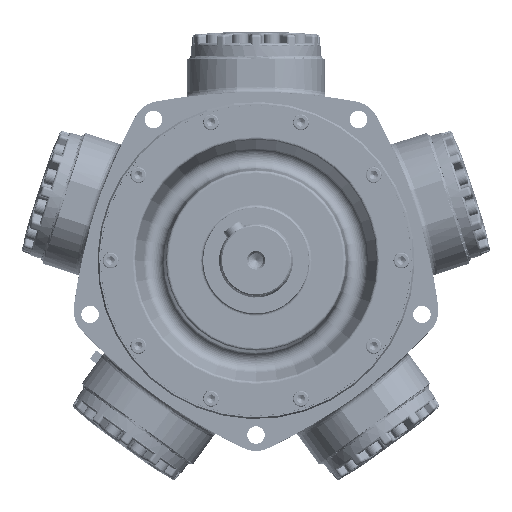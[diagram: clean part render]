
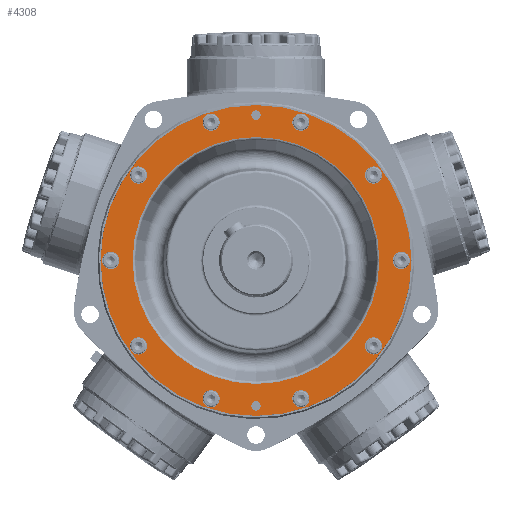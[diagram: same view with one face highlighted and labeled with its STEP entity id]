
A CAD part, top view. The second image highlights one B-rep face of the part: STEP entity #4308.
In plain terms, the highlighted planar face has unit normal (0, 0, 1).
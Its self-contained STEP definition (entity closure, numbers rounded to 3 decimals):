
#3345=CARTESIAN_POINT('',(5.664,174.625,69.152));
#3346=VERTEX_POINT('',#3345);
#3347=CARTESIAN_POINT('',(0.,174.625,69.152));
#3348=DIRECTION('',(0.0,0.0,-1.0));
#3349=DIRECTION('',(1.0,0.0,0.0));
#3350=AXIS2_PLACEMENT_3D('',#3347,#3348,#3349);
#3351=CIRCLE('',#3350,5.664);
#3352=EDGE_CURVE('',#3346,#3346,#3351,.T.);
#3373=CARTESIAN_POINT('',(5.664,-174.625,69.152));
#3374=VERTEX_POINT('',#3373);
#3375=CARTESIAN_POINT('',(0.,-174.625,69.152));
#3376=DIRECTION('',(0.0,0.0,-1.0));
#3377=DIRECTION('',(1.0,0.0,0.0));
#3378=AXIS2_PLACEMENT_3D('',#3375,#3376,#3377);
#3379=CIRCLE('',#3378,5.664);
#3380=EDGE_CURVE('',#3374,#3374,#3379,.T.);
#3390=CARTESIAN_POINT('',(57.151,-175.892,69.152));
#3391=VERTEX_POINT('',#3390);
#3392=CARTESIAN_POINT('',(53.962,-166.078,69.152));
#3393=DIRECTION('',(0.,0.,-1.0));
#3394=DIRECTION('',(0.309,-0.951,0.));
#3395=AXIS2_PLACEMENT_3D('',#3392,#3393,#3394);
#3396=CIRCLE('',#3395,10.319);
#3397=EDGE_CURVE('',#3391,#3391,#3396,.T.);
#3430=CARTESIAN_POINT('',(-57.151,-175.892,69.152));
#3431=VERTEX_POINT('',#3430);
#3432=CARTESIAN_POINT('',(-53.962,-166.078,69.152));
#3433=DIRECTION('',(0.,0.,-1.0));
#3434=DIRECTION('',(-0.309,-0.951,0.));
#3435=AXIS2_PLACEMENT_3D('',#3432,#3433,#3434);
#3436=CIRCLE('',#3435,10.319);
#3437=EDGE_CURVE('',#3431,#3431,#3436,.T.);
#3478=CARTESIAN_POINT('',(-149.623,-108.707,69.152));
#3479=VERTEX_POINT('',#3478);
#3480=CARTESIAN_POINT('',(-141.275,-102.642,69.152));
#3481=DIRECTION('',(0.,0.,-1.0));
#3482=DIRECTION('',(-0.809,-0.588,0.));
#3483=AXIS2_PLACEMENT_3D('',#3480,#3481,#3482);
#3484=CIRCLE('',#3483,10.319);
#3485=EDGE_CURVE('',#3479,#3479,#3484,.T.);
#3518=CARTESIAN_POINT('',(-184.944,0.,69.152));
#3519=VERTEX_POINT('',#3518);
#3520=CARTESIAN_POINT('',(-174.625,0.,69.152));
#3521=DIRECTION('',(0.0,0.0,-1.0));
#3522=DIRECTION('',(-1.0,0.0,0.0));
#3523=AXIS2_PLACEMENT_3D('',#3520,#3521,#3522);
#3524=CIRCLE('',#3523,10.319);
#3525=EDGE_CURVE('',#3519,#3519,#3524,.T.);
#3566=CARTESIAN_POINT('',(-149.623,108.707,69.152));
#3567=VERTEX_POINT('',#3566);
#3568=CARTESIAN_POINT('',(-141.275,102.642,69.152));
#3569=DIRECTION('',(0.,0.,-1.0));
#3570=DIRECTION('',(-0.809,0.588,0.));
#3571=AXIS2_PLACEMENT_3D('',#3568,#3569,#3570);
#3572=CIRCLE('',#3571,10.319);
#3573=EDGE_CURVE('',#3567,#3567,#3572,.T.);
#3606=CARTESIAN_POINT('',(-57.151,175.892,69.152));
#3607=VERTEX_POINT('',#3606);
#3608=CARTESIAN_POINT('',(-53.962,166.078,69.152));
#3609=DIRECTION('',(0.,0.,-1.0));
#3610=DIRECTION('',(-0.309,0.951,0.));
#3611=AXIS2_PLACEMENT_3D('',#3608,#3609,#3610);
#3612=CIRCLE('',#3611,10.319);
#3613=EDGE_CURVE('',#3607,#3607,#3612,.T.);
#3654=CARTESIAN_POINT('',(57.151,175.892,69.152));
#3655=VERTEX_POINT('',#3654);
#3656=CARTESIAN_POINT('',(53.962,166.078,69.152));
#3657=DIRECTION('',(0.,0.,-1.0));
#3658=DIRECTION('',(0.309,0.951,0.));
#3659=AXIS2_PLACEMENT_3D('',#3656,#3657,#3658);
#3660=CIRCLE('',#3659,10.319);
#3661=EDGE_CURVE('',#3655,#3655,#3660,.T.);
#3694=CARTESIAN_POINT('',(149.623,108.707,69.152));
#3695=VERTEX_POINT('',#3694);
#3696=CARTESIAN_POINT('',(141.275,102.642,69.152));
#3697=DIRECTION('',(0.,0.,-1.0));
#3698=DIRECTION('',(0.809,0.588,0.));
#3699=AXIS2_PLACEMENT_3D('',#3696,#3697,#3698);
#3700=CIRCLE('',#3699,10.319);
#3701=EDGE_CURVE('',#3695,#3695,#3700,.T.);
#3734=CARTESIAN_POINT('',(149.623,-108.707,69.152));
#3735=VERTEX_POINT('',#3734);
#3736=CARTESIAN_POINT('',(141.275,-102.642,69.152));
#3737=DIRECTION('',(0.,0.,-1.0));
#3738=DIRECTION('',(0.809,-0.588,0.));
#3739=AXIS2_PLACEMENT_3D('',#3736,#3737,#3738);
#3740=CIRCLE('',#3739,10.319);
#3741=EDGE_CURVE('',#3735,#3735,#3740,.T.);
#3782=CARTESIAN_POINT('',(184.944,0.,69.152));
#3783=VERTEX_POINT('',#3782);
#3784=CARTESIAN_POINT('',(174.625,0.,69.152));
#3785=DIRECTION('',(0.0,0.0,-1.0));
#3786=DIRECTION('',(1.0,0.0,0.0));
#3787=AXIS2_PLACEMENT_3D('',#3784,#3785,#3786);
#3788=CIRCLE('',#3787,10.319);
#3789=EDGE_CURVE('',#3783,#3783,#3788,.T.);
#4018=CARTESIAN_POINT('',(0.,186.626,69.152));
#4019=VERTEX_POINT('',#4018);
#4020=CARTESIAN_POINT('',(0.,0.,69.152));
#4021=DIRECTION('',(0.0,0.0,1.0));
#4022=DIRECTION('',(0.0,-1.0,0.0));
#4023=AXIS2_PLACEMENT_3D('',#4020,#4021,#4022);
#4024=CIRCLE('',#4023,186.626);
#4025=EDGE_CURVE('',#4019,#4019,#4024,.T.);
#4238=CARTESIAN_POINT('',(0.,148.273,69.152));
#4239=VERTEX_POINT('',#4238);
#4240=CARTESIAN_POINT('',(0.,0.,69.152));
#4241=DIRECTION('',(0.0,0.0,1.0));
#4242=DIRECTION('',(0.0,-1.0,0.0));
#4243=AXIS2_PLACEMENT_3D('',#4240,#4241,#4242);
#4244=CIRCLE('',#4243,148.273);
#4245=EDGE_CURVE('',#4239,#4239,#4244,.T.);
#4261=CARTESIAN_POINT('',(0.,169.862,69.152));
#4262=DIRECTION('',(0.0,0.0,1.0));
#4263=DIRECTION('',(1.0,0.0,0.0));
#4264=AXIS2_PLACEMENT_3D('',#4261,#4262,#4263);
#4265=PLANE('',#4264);
#4266=ORIENTED_EDGE('',*,*,#4025,.T.);
#4267=EDGE_LOOP('',(#4266));
#4268=FACE_OUTER_BOUND('',#4267,.T.);
#4269=ORIENTED_EDGE('',*,*,#3352,.T.);
#4270=EDGE_LOOP('',(#4269));
#4271=FACE_BOUND('',#4270,.T.);
#4272=ORIENTED_EDGE('',*,*,#3380,.T.);
#4273=EDGE_LOOP('',(#4272));
#4274=FACE_BOUND('',#4273,.T.);
#4275=ORIENTED_EDGE('',*,*,#3397,.T.);
#4276=EDGE_LOOP('',(#4275));
#4277=FACE_BOUND('',#4276,.T.);
#4278=ORIENTED_EDGE('',*,*,#3437,.T.);
#4279=EDGE_LOOP('',(#4278));
#4280=FACE_BOUND('',#4279,.T.);
#4281=ORIENTED_EDGE('',*,*,#3485,.T.);
#4282=EDGE_LOOP('',(#4281));
#4283=FACE_BOUND('',#4282,.T.);
#4284=ORIENTED_EDGE('',*,*,#3525,.T.);
#4285=EDGE_LOOP('',(#4284));
#4286=FACE_BOUND('',#4285,.T.);
#4287=ORIENTED_EDGE('',*,*,#3573,.T.);
#4288=EDGE_LOOP('',(#4287));
#4289=FACE_BOUND('',#4288,.T.);
#4290=ORIENTED_EDGE('',*,*,#3613,.T.);
#4291=EDGE_LOOP('',(#4290));
#4292=FACE_BOUND('',#4291,.T.);
#4293=ORIENTED_EDGE('',*,*,#3661,.T.);
#4294=EDGE_LOOP('',(#4293));
#4295=FACE_BOUND('',#4294,.T.);
#4296=ORIENTED_EDGE('',*,*,#3701,.T.);
#4297=EDGE_LOOP('',(#4296));
#4298=FACE_BOUND('',#4297,.T.);
#4299=ORIENTED_EDGE('',*,*,#3741,.T.);
#4300=EDGE_LOOP('',(#4299));
#4301=FACE_BOUND('',#4300,.T.);
#4302=ORIENTED_EDGE('',*,*,#3789,.T.);
#4303=EDGE_LOOP('',(#4302));
#4304=FACE_BOUND('',#4303,.T.);
#4305=ORIENTED_EDGE('',*,*,#4245,.F.);
#4306=EDGE_LOOP('',(#4305));
#4307=FACE_BOUND('',#4306,.T.);
#4308=ADVANCED_FACE('',(#4268,#4271,#4274,#4277,#4280,#4283,#4286,#4289,#4292,#4295,#4298,#4301,#4304,#4307),#4265,.T.);
